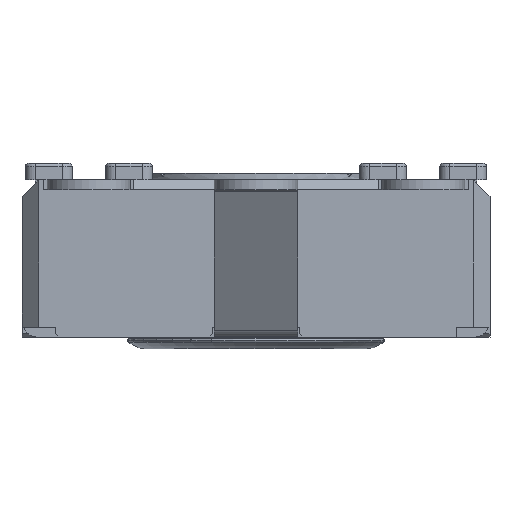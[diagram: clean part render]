
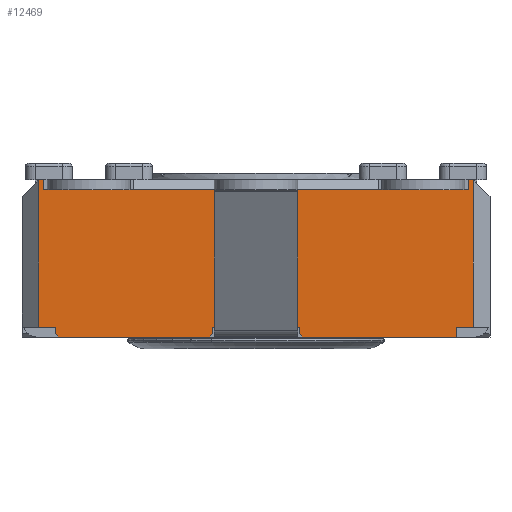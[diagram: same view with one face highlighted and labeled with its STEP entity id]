
A CAD part, front view. The second image highlights one B-rep face of the part: STEP entity #12469.
In plain terms, the highlighted planar face has unit normal (0, -1, 0).
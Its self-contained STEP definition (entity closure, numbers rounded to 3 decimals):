
#397=PLANE('',#13329);
#977=FACE_OUTER_BOUND('',#1652,.T.);
#1652=EDGE_LOOP('',(#10049,#10050,#10051,#10052,#10053,#10054,#10055,#10056,
#10057,#10058,#10059,#10060,#10061,#10062,#10063,#10064,#10065,#10066,#10067,
#10068,#10069,#10070,#10071,#10072,#10073,#10074,#10075));
#2047=LINE('',#17481,#3468);
#2117=LINE('',#17671,#3538);
#2118=LINE('',#17673,#3539);
#2119=LINE('',#17676,#3540);
#2124=LINE('',#17686,#3545);
#2186=LINE('',#17817,#3607);
#2193=LINE('',#17834,#3614);
#2322=LINE('',#18238,#3743);
#2337=LINE('',#18267,#3758);
#2405=LINE('',#18419,#3826);
#2413=LINE('',#18432,#3834);
#2529=LINE('',#18803,#3950);
#2736=LINE('',#19327,#4157);
#2741=LINE('',#19336,#4162);
#2744=LINE('',#19341,#4165);
#2831=LINE('',#19618,#4252);
#2839=LINE('',#19636,#4260);
#2845=LINE('',#19644,#4266);
#2846=LINE('',#19647,#4267);
#2847=LINE('',#19649,#4268);
#2848=LINE('',#19651,#4269);
#2849=LINE('',#19652,#4270);
#2850=LINE('',#19653,#4271);
#2851=LINE('',#19654,#4272);
#2852=LINE('',#19655,#4273);
#2853=LINE('',#19656,#4274);
#2854=LINE('',#19657,#4275);
#3468=VECTOR('',#13986,10.);
#3538=VECTOR('',#14142,10.);
#3539=VECTOR('',#14145,10.);
#3540=VECTOR('',#14148,10.);
#3545=VECTOR('',#14153,10.);
#3607=VECTOR('',#14265,10.);
#3614=VECTOR('',#14278,10.);
#3743=VECTOR('',#14703,10.);
#3758=VECTOR('',#14732,10.);
#3826=VECTOR('',#14882,10.);
#3834=VECTOR('',#14892,10.);
#3950=VECTOR('',#15156,10.);
#4157=VECTOR('',#15505,10.);
#4162=VECTOR('',#15510,10.);
#4165=VECTOR('',#15515,10.);
#4252=VECTOR('',#15740,10.);
#4260=VECTOR('',#15752,10.);
#4266=VECTOR('',#15762,10.);
#4267=VECTOR('',#15765,10.);
#4268=VECTOR('',#15766,10.);
#4269=VECTOR('',#15767,10.);
#4270=VECTOR('',#15768,10.);
#4271=VECTOR('',#15769,10.);
#4272=VECTOR('',#15770,10.);
#4273=VECTOR('',#15771,10.);
#4274=VECTOR('',#15772,10.);
#4275=VECTOR('',#15773,10.);
#5172=VERTEX_POINT('',#17358);
#5223=VERTEX_POINT('',#17480);
#5251=VERTEX_POINT('',#17556);
#5274=VERTEX_POINT('',#17606);
#5296=VERTEX_POINT('',#17657);
#5298=VERTEX_POINT('',#17663);
#5301=VERTEX_POINT('',#17675);
#5305=VERTEX_POINT('',#17683);
#5306=VERTEX_POINT('',#17685);
#5350=VERTEX_POINT('',#17815);
#5357=VERTEX_POINT('',#17833);
#5483=VERTEX_POINT('',#18235);
#5484=VERTEX_POINT('',#18237);
#5490=VERTEX_POINT('',#18264);
#5491=VERTEX_POINT('',#18266);
#5534=VERTEX_POINT('',#18418);
#5538=VERTEX_POINT('',#18430);
#5658=VERTEX_POINT('',#18799);
#5809=VERTEX_POINT('',#19326);
#5813=VERTEX_POINT('',#19334);
#5866=VERTEX_POINT('',#19616);
#5867=VERTEX_POINT('',#19617);
#5874=VERTEX_POINT('',#19634);
#5875=VERTEX_POINT('',#19635);
#5876=VERTEX_POINT('',#19646);
#5877=VERTEX_POINT('',#19648);
#5878=VERTEX_POINT('',#19650);
#6416=EDGE_CURVE('',#5223,#5172,#2047,.T.);
#6510=EDGE_CURVE('',#5296,#5251,#2117,.T.);
#6511=EDGE_CURVE('',#5298,#5274,#2118,.T.);
#6512=EDGE_CURVE('',#5301,#5223,#2119,.T.);
#6517=EDGE_CURVE('',#5306,#5305,#2124,.T.);
#6584=EDGE_CURVE('',#5251,#5350,#2186,.T.);
#6592=EDGE_CURVE('',#5357,#5296,#2193,.T.);
#6795=EDGE_CURVE('',#5484,#5483,#2322,.T.);
#6810=EDGE_CURVE('',#5491,#5490,#2337,.T.);
#6887=EDGE_CURVE('',#5534,#5298,#2405,.T.);
#6895=EDGE_CURVE('',#5274,#5538,#2413,.T.);
#7049=EDGE_CURVE('',#5491,#5658,#2529,.T.);
#7277=EDGE_CURVE('',#5809,#5658,#2736,.T.);
#7282=EDGE_CURVE('',#5172,#5813,#2741,.T.);
#7285=EDGE_CURVE('',#5306,#5483,#2744,.T.);
#7391=EDGE_CURVE('',#5866,#5867,#2831,.T.);
#7399=EDGE_CURVE('',#5874,#5875,#2839,.T.);
#7405=EDGE_CURVE('',#5301,#5866,#2845,.T.);
#7406=EDGE_CURVE('',#5813,#5876,#2846,.T.);
#7407=EDGE_CURVE('',#5877,#5876,#2847,.T.);
#7408=EDGE_CURVE('',#5877,#5878,#2848,.T.);
#7409=EDGE_CURVE('',#5878,#5809,#2849,.T.);
#7410=EDGE_CURVE('',#5490,#5534,#2850,.T.);
#7411=EDGE_CURVE('',#5357,#5538,#2851,.T.);
#7412=EDGE_CURVE('',#5350,#5484,#2852,.T.);
#7413=EDGE_CURVE('',#5305,#5875,#2853,.T.);
#7414=EDGE_CURVE('',#5874,#5867,#2854,.T.);
#10049=ORIENTED_EDGE('',*,*,#7391,.F.);
#10050=ORIENTED_EDGE('',*,*,#7405,.F.);
#10051=ORIENTED_EDGE('',*,*,#6512,.T.);
#10052=ORIENTED_EDGE('',*,*,#6416,.T.);
#10053=ORIENTED_EDGE('',*,*,#7282,.T.);
#10054=ORIENTED_EDGE('',*,*,#7406,.T.);
#10055=ORIENTED_EDGE('',*,*,#7407,.F.);
#10056=ORIENTED_EDGE('',*,*,#7408,.T.);
#10057=ORIENTED_EDGE('',*,*,#7409,.T.);
#10058=ORIENTED_EDGE('',*,*,#7277,.T.);
#10059=ORIENTED_EDGE('',*,*,#7049,.F.);
#10060=ORIENTED_EDGE('',*,*,#6810,.T.);
#10061=ORIENTED_EDGE('',*,*,#7410,.T.);
#10062=ORIENTED_EDGE('',*,*,#6887,.T.);
#10063=ORIENTED_EDGE('',*,*,#6511,.T.);
#10064=ORIENTED_EDGE('',*,*,#6895,.T.);
#10065=ORIENTED_EDGE('',*,*,#7411,.F.);
#10066=ORIENTED_EDGE('',*,*,#6592,.T.);
#10067=ORIENTED_EDGE('',*,*,#6510,.T.);
#10068=ORIENTED_EDGE('',*,*,#6584,.T.);
#10069=ORIENTED_EDGE('',*,*,#7412,.T.);
#10070=ORIENTED_EDGE('',*,*,#6795,.T.);
#10071=ORIENTED_EDGE('',*,*,#7285,.F.);
#10072=ORIENTED_EDGE('',*,*,#6517,.T.);
#10073=ORIENTED_EDGE('',*,*,#7413,.T.);
#10074=ORIENTED_EDGE('',*,*,#7399,.F.);
#10075=ORIENTED_EDGE('',*,*,#7414,.T.);
#12469=ADVANCED_FACE('',(#977),#397,.T.);
#13329=AXIS2_PLACEMENT_3D('',#19645,#15763,#15764);
#13986=DIRECTION('',(1.,0.,0.));
#14142=DIRECTION('',(-1.,0.,0.));
#14145=DIRECTION('',(-1.,0.,0.));
#14148=DIRECTION('',(1.,0.,0.));
#14153=DIRECTION('',(1.,0.,0.));
#14265=DIRECTION('',(-1.,0.,0.));
#14278=DIRECTION('',(-1.,0.,0.));
#14703=DIRECTION('',(-1.,0.,0.));
#14732=DIRECTION('',(-1.,0.,0.));
#14882=DIRECTION('',(-1.,0.,0.));
#14892=DIRECTION('',(-1.,0.,0.));
#15156=DIRECTION('',(0.,0.,-1.));
#15505=DIRECTION('',(1.,0.,0.));
#15510=DIRECTION('',(1.,0.,0.));
#15515=DIRECTION('',(0.,0.,1.));
#15740=DIRECTION('',(-0.707,0.,-0.707));
#15752=DIRECTION('',(-0.707,0.,0.707));
#15762=DIRECTION('',(0.,0.,-1.));
#15763=DIRECTION('center_axis',(0.,-1.,0.));
#15764=DIRECTION('ref_axis',(0.,0.,-1.));
#15765=DIRECTION('',(0.,0.,-1.));
#15766=DIRECTION('',(-0.707,0.,0.707));
#15767=DIRECTION('',(1.,0.,0.));
#15768=DIRECTION('',(0.,0.,1.));
#15769=DIRECTION('',(0.,0.,-1.));
#15770=DIRECTION('',(1.,0.,0.));
#15771=DIRECTION('',(0.,0.,1.));
#15772=DIRECTION('',(0.,0.,-1.));
#15773=DIRECTION('',(1.,0.,0.));
#17358=CARTESIAN_POINT('',(-6.217,-9.898,0.));
#17480=CARTESIAN_POINT('',(-8.717,-9.898,0.));
#17481=CARTESIAN_POINT('',(-14.467,-9.898,0.));
#17556=CARTESIAN_POINT('',(-13.717,-9.898,4.1));
#17606=CARTESIAN_POINT('',(-3.717,-9.898,4.1));
#17657=CARTESIAN_POINT('',(-11.217,-9.898,4.1));
#17663=CARTESIAN_POINT('',(-1.217,-9.898,4.1));
#17671=CARTESIAN_POINT('',(-3.944,-9.898,4.1));
#17673=CARTESIAN_POINT('',(-1.862,-9.898,4.1));
#17675=CARTESIAN_POINT('',(-8.767,-9.898,0.));
#17676=CARTESIAN_POINT('',(-14.467,-9.898,0.));
#17683=CARTESIAN_POINT('',(-13.467,-9.898,0.));
#17685=CARTESIAN_POINT('',(-13.967,-9.898,0.));
#17686=CARTESIAN_POINT('',(-7.245,-9.898,0.));
#17815=CARTESIAN_POINT('',(-13.817,-9.898,4.1));
#17817=CARTESIAN_POINT('',(-3.944,-9.898,4.1));
#17833=CARTESIAN_POINT('',(-11.117,-9.898,4.1));
#17834=CARTESIAN_POINT('',(-3.944,-9.898,4.1));
#18235=CARTESIAN_POINT('',(-13.967,-9.898,4.4));
#18237=CARTESIAN_POINT('',(-13.817,-9.898,4.4));
#18238=CARTESIAN_POINT('',(-14.467,-9.898,4.4));
#18264=CARTESIAN_POINT('',(-1.117,-9.898,4.4));
#18266=CARTESIAN_POINT('',(-0.967,-9.898,4.4));
#18267=CARTESIAN_POINT('',(-14.467,-9.898,4.4));
#18418=CARTESIAN_POINT('',(-1.117,-9.898,4.1));
#18419=CARTESIAN_POINT('',(-1.862,-9.898,4.1));
#18430=CARTESIAN_POINT('',(-3.817,-9.898,4.1));
#18432=CARTESIAN_POINT('',(-1.862,-9.898,4.1));
#18799=CARTESIAN_POINT('',(-0.967,-9.898,0.));
#18803=CARTESIAN_POINT('',(-0.967,-9.898,0.));
#19326=CARTESIAN_POINT('',(-1.467,-9.898,0.));
#19327=CARTESIAN_POINT('',(-0.646,-9.898,0.));
#19334=CARTESIAN_POINT('',(-6.167,-9.898,0.));
#19336=CARTESIAN_POINT('',(-14.467,-9.898,0.));
#19341=CARTESIAN_POINT('',(-13.967,-9.898,0.));
#19616=CARTESIAN_POINT('',(-8.767,-9.898,-0.2));
#19617=CARTESIAN_POINT('',(-8.867,-9.898,-0.3));
#19618=CARTESIAN_POINT('',(-6.667,-9.898,1.9));
#19634=CARTESIAN_POINT('',(-13.367,-9.898,-0.3));
#19635=CARTESIAN_POINT('',(-13.467,-9.898,-0.2));
#19636=CARTESIAN_POINT('',(-10.242,-9.898,-3.425));
#19644=CARTESIAN_POINT('',(-8.767,-9.898,0.));
#19645=CARTESIAN_POINT('Origin',(-0.467,-9.898,0.));
#19646=CARTESIAN_POINT('',(-6.167,-9.898,-0.2));
#19647=CARTESIAN_POINT('',(-6.167,-9.898,0.));
#19648=CARTESIAN_POINT('',(-6.067,-9.898,-0.3));
#19649=CARTESIAN_POINT('',(-4.767,-9.898,-1.6));
#19650=CARTESIAN_POINT('',(-1.467,-9.898,-0.3));
#19651=CARTESIAN_POINT('',(-0.467,-9.898,-0.3));
#19652=CARTESIAN_POINT('',(-1.467,-9.898,-0.15));
#19653=CARTESIAN_POINT('',(-1.117,-9.898,2.2));
#19654=CARTESIAN_POINT('',(-3.967,-9.898,4.1));
#19655=CARTESIAN_POINT('',(-13.817,-9.898,2.2));
#19656=CARTESIAN_POINT('',(-13.467,-9.898,-0.15));
#19657=CARTESIAN_POINT('',(-0.467,-9.898,-0.3));
